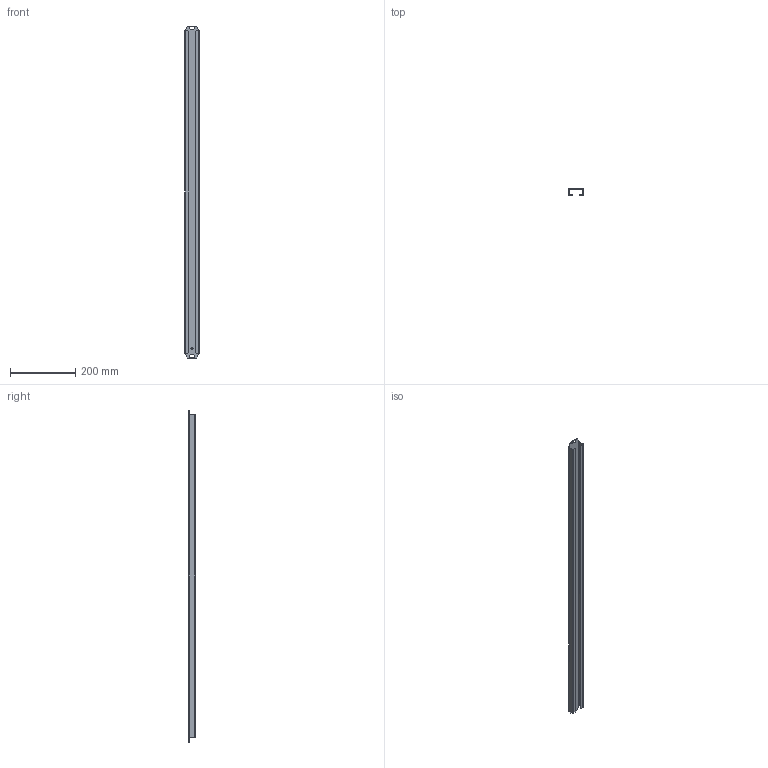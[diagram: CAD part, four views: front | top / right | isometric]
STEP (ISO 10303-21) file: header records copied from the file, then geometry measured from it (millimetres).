
FILE_DESCRIPTION (( 'STEP AP214' ), '1' );
FILE_NAME ('PKV X B Ïàíåëü êàáåëüíîãî ââîäà óçêàÿ.STEP', '2023-10-09T14:45:04', ( '' ), ( '' ), 'SwSTEP 2.0', 'SolidWorks 2022', '' );
FILE_SCHEMA (( 'AUTOMOTIVE_DESIGN' ));
Length unit declared in the file: millimetre
Products named in the file (1): PKV X B Панель кабельного ввода узкая
Bounding box: 45 x 20.5 x 1020.5 mm (x, y, z)
Volume: 121804.2 mm3; surface area: 205789.6 mm2
Topology: 1 solids, 1 shells, 56 faces, 130 edges, 76 vertices
Faces by surface type: plane 38, cylinder 14, bspline 4
Entity records: 1704 total; most frequent: CARTESIAN_POINT 427, ORIENTED_EDGE 260, DIRECTION 240, EDGE_CURVE 130, LINE 94, VECTOR 94, VERTEX_POINT 76, AXIS2_PLACEMENT_3D 73
